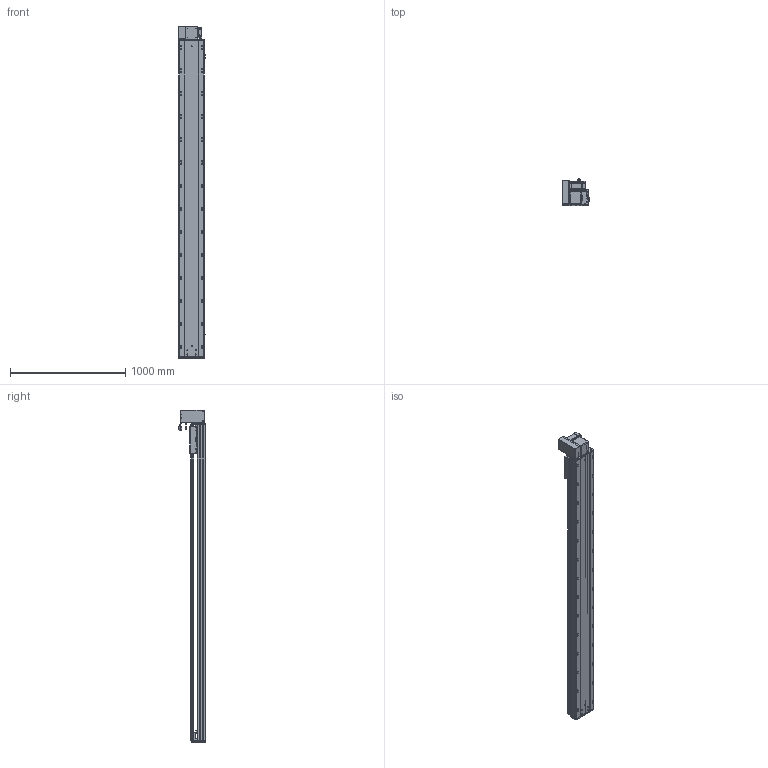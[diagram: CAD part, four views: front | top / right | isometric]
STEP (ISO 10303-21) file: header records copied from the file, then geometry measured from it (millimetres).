
FILE_DESCRIPTION (( 'STEP AP203' ), '1' );
FILE_NAME ('RY220-T-300-UL.SLDASM_2400.step', '2022-07-25T08:35:31', ( '' ), ( '' ), 'SwSTEP 2.0', 'SolidWorks 2016', '' );
FILE_SCHEMA (( 'CONFIG_CONTROL_DESIGN' ));
Length unit declared in the file: millimetre
Products named in the file (14): 110A-T-肮祭謫釱傷裔; RY220-T菁釱-300_2400; RY220-同步轮副支撑座6304×2; RY220翋肮祭謫釱; RY220-T-湍謫欶(鍼踢); RY220-T-300-UL.SLDASM_2400; 怢湛750W_ECMA-CX0807ES; RY220翋肮祭謫裔啣; 覜茼ん672; RY220-俋离672覜茼んえ; 滅袉蝶18-15; RY220-T-蛌殏萇儂假蚾啣(750W); RY220-T-300-奻裔啣_2400; RY220圉猾敕々湍臏賑輸
Assembly tree (18 placements, depth 2):
  RY220-T-300-UL.SLDASM_2400
    RY220-T菁釱-300_2400
    RY220翋肮祭謫釱
    覜茼ん672  x3
    RY220圉猾敕々湍臏賑輸
    RY220-T-300-奻裔啣_2400
    RY220-俋离672覜茼んえ
    滅袉蝶18-15  x3
    RY220翋肮祭謫裔啣  x2
    110A-T-肮祭謫釱傷裔
    怢湛750W_ECMA-CX0807ES
    RY220-T-湍謫欶(鍼踢)
    RY220-T-蛌殏萇儂假蚾啣(750W)
    RY220-同步轮副支撑座6304×2
Bounding box: 239.7 x 231.74 x 2880.5 mm (x, y, z)
Volume: 21322359.9 mm3; surface area: 6533098 mm2
Topology: 19 solids, 19 shells, 2906 faces, 8031 edges, 5044 vertices
Faces by surface type: cylinder 1414, plane 1069, cone 341, bspline 56, sphere 16, torus 10
Entity records: 96787 total; most frequent: CARTESIAN_POINT 27357, ORIENTED_EDGE 14362, DIRECTION 13800, EDGE_CURVE 7181, AXIS2_PLACEMENT_3D 4956, VERTEX_POINT 4668, LINE 3888, VECTOR 3888
